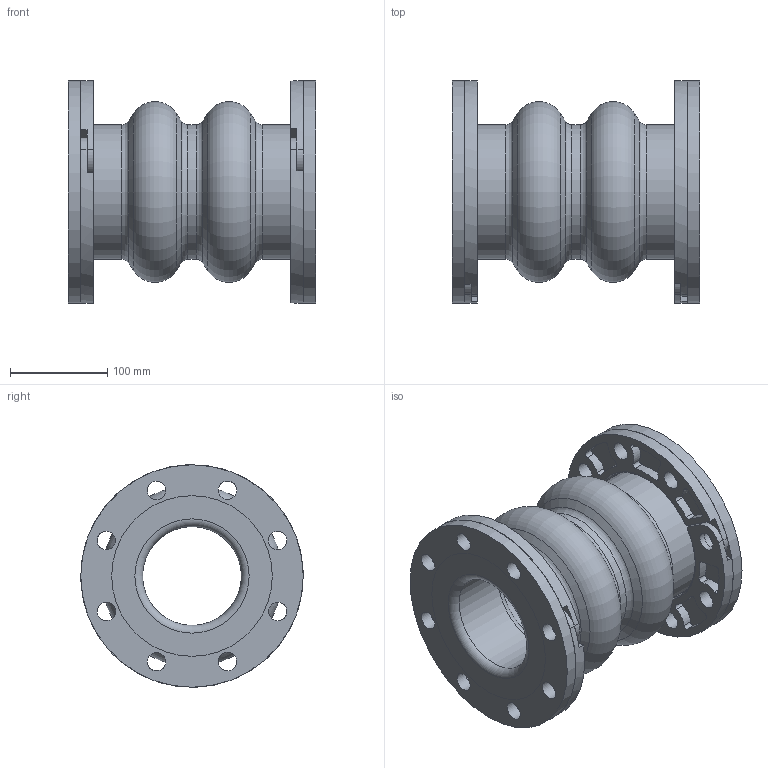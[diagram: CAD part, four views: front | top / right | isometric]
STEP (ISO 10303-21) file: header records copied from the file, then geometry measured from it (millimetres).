
FILE_DESCRIPTION(/* description */ (''),/* implementation_level */ '2;1');
FILE_NAME(/* name */ 'C:\001_Work\Designs\Mercer2014\MQInventor2014\RajR\700 Style\702\STP\702 4IDx10FF.stp',/* time_stamp */ '2016-04-10T12:55:49-04:00',/* author */ ('rramoutar'),/* organization */ ('Mason Industries Inc.'),/* preprocessor_version */ 'ST-DEVELOPER v15.6',/* originating_system */ 'Autodesk Inventor 2015',/* authorisation */ '');
FILE_SCHEMA (('CONFIG_CONTROL_DESIGN'));
Length unit declared in the file: inch
Products named in the file (1): 702 4IDx10FF
Bounding box: 254 x 228.61 x 228.6 mm (x, y, z)
Volume: 3328525.7 mm3; surface area: 539177.3 mm2
Topology: 5 solids, 5 shells, 280 faces, 730 edges, 480 vertices
Faces by surface type: cylinder 188, plane 62, torus 22, cone 8
Full cylindrical faces by diameter (mm): 19.05 x36, 101.6 x3, 138.112 x3, 228.6 x2
Entity records: 9040 total; most frequent: DIRECTION 1634, CARTESIAN_POINT 1557, ORIENTED_EDGE 1320, AXIS2_PLACEMENT_3D 705, EDGE_CURVE 660, VERTEX_POINT 476, EDGE_LOOP 440, CIRCLE 424
